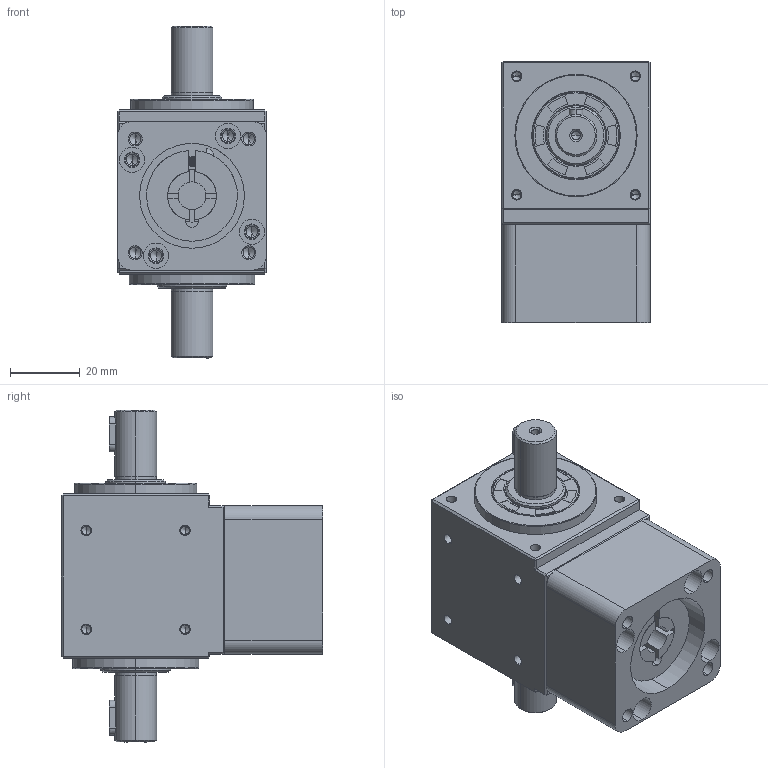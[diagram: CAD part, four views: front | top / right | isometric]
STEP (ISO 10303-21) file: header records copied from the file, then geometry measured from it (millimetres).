
FILE_DESCRIPTION (( 'STEP AP214' ), '1' );
FILE_NAME ('RD42-5(8-30-46-M4).STEP', '2018-12-05T04:20:28', ( '' ), ( '' ), 'SwSTEP 2.0', 'SolidWorks 2016', '' );
FILE_SCHEMA (( 'AUTOMOTIVE_DESIGN' ));
Length unit declared in the file: millimetre
Products named in the file (8): SN42-26x14x11-M4; R42; RD42-5(8-30-46-M4); RD42-(12x20-4x10); R42-5(30-46-M4); R42-17x25x4; R42-20x32x5; R42-5-(8)
Assembly tree (7 placements, depth 2):
  RD42-5(8-30-46-M4)
    R42
    R42-5(30-46-M4)
    RD42-(12x20-4x10)
    R42-20x32x5
    R42-17x25x4
    SN42-26x14x11-M4
    R42-5-(8)
Bounding box: 42.5 x 74.75 x 95 mm (x, y, z)
Volume: 106691.1 mm3; surface area: 47057.7 mm2
Topology: 8 solids, 8 shells, 649 faces, 1528 edges, 901 vertices
Faces by surface type: cylinder 309, plane 146, cone 136, torus 36, bspline 22
Entity records: 30918 total; most frequent: CARTESIAN_POINT 15691, DIRECTION 3045, ORIENTED_EDGE 2936, EDGE_CURVE 1468, AXIS2_PLACEMENT_3D 1188, VERTEX_POINT 901, EDGE_LOOP 741, LINE 669
